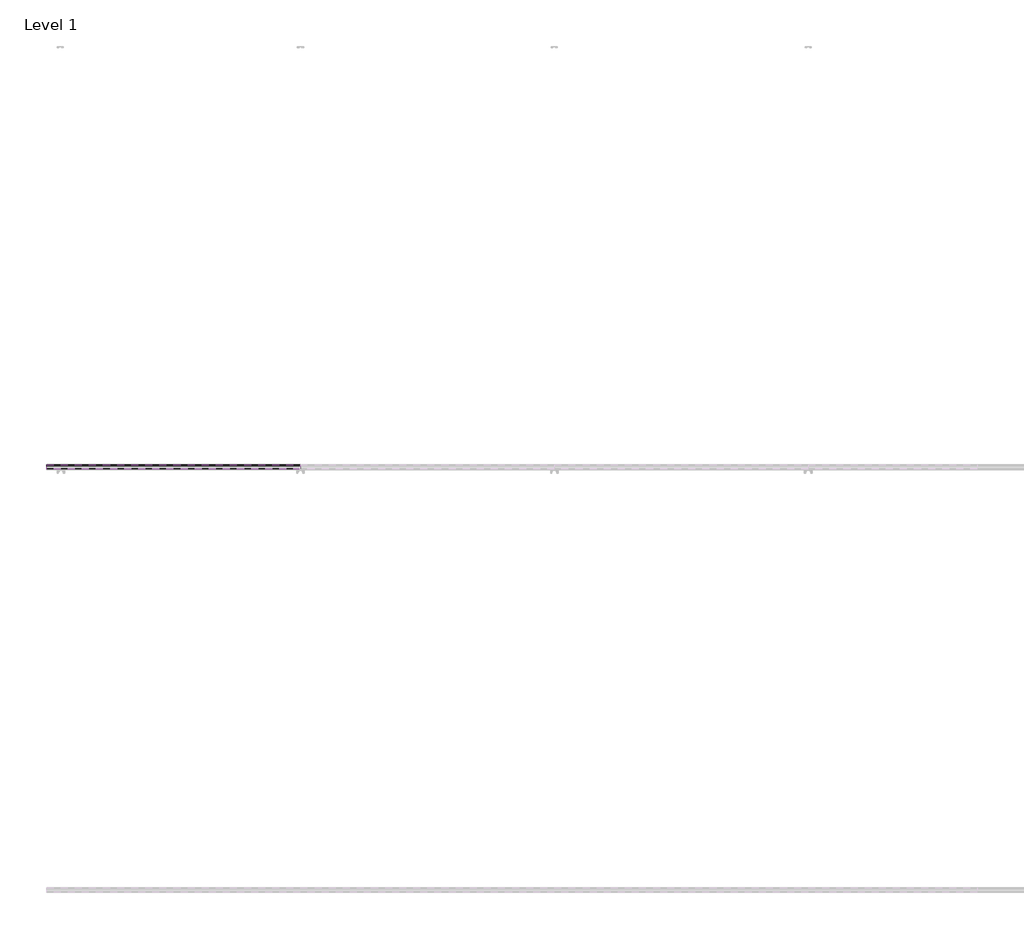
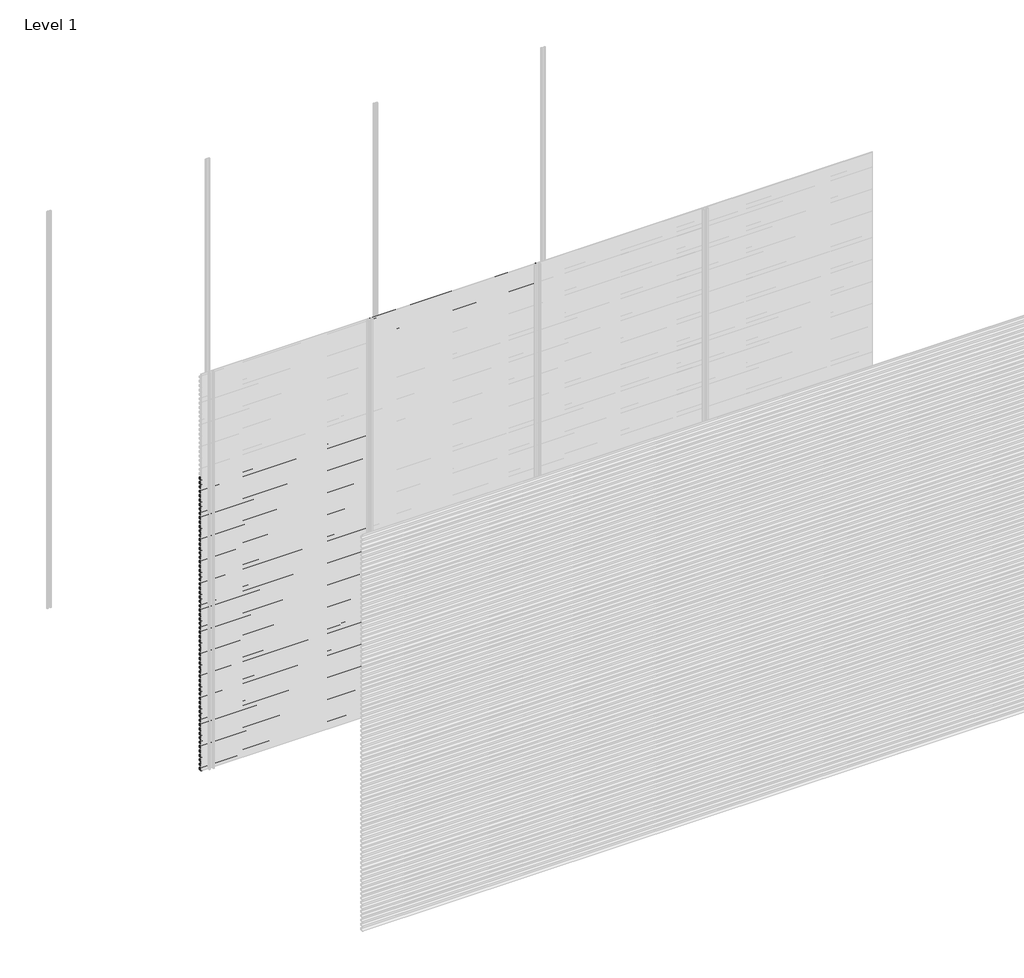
# One storey, part 65 of 77: 72 proxies.
"""IFC4 building model written with IfcOpenShell, lengths in millimetres."""

from ifc_helpers import new_model, si_unit, frame, origin, place, context, project, spatial, polyline, outline, extrude, element, save

model = new_model("IFC4")

# Units and contexts
model_context = context("Model", 3, world=origin())
ifc_project = project(units=[si_unit("LENGTHUNIT", "METRE", prefix="MILLI")], contexts=[model_context])

# Site, building, storey
site = spatial("IfcSite", under=ifc_project)
building = spatial("IfcBuilding", under=site)
storey = spatial("IfcBuildingStorey", under=building, Name="Level 1", Elevation=0.0)

# Proxies
placement = place(None, origin())
element("IfcBuildingElementProxy", 1, Name="Wall Sweeps", at=placement, inside=storey, context=model_context, shape_type="SweptSolid", body=[
    extrude(outline(polyline([(-5978.6, 2206.6359887), (-5998.0, 2217.8366691), (-5998.0, 2231.1), (-5997.0, 2231.1), (-5997.0, 2218.4191057), (-5977.6, 2207.2185105), (-5977.6, 2193.6185105), (-5978.6, 2195.1953129), (-5978.6, 2201.0032062), (-5995.9773817, 2192.9), (-5996.4, 2193.8063078), (-5978.6, 2202.1065841), (-5978.6, 2206.6359887)])), frame((0.0, 0.0, 0.0), z_axis=(1.0, 0.0, 0.0), x_axis=(0.0, 1.0, 0.0)), (0.0, 0.0, 1.0), 1200.0),
])
element("IfcBuildingElementProxy", 2, Name="Wall Sweeps", at=placement, inside=storey, context=model_context, shape_type="SweptSolid", body=[
    extrude(outline(polyline([(-5978.6, 2173.3359887), (-5998.0, 2184.5366691), (-5998.0, 2197.8), (-5997.0, 2197.8), (-5997.0, 2185.1191057), (-5977.6, 2173.9185105), (-5977.6, 2160.3185105), (-5978.6, 2161.8953129), (-5978.6, 2167.7032062), (-5995.9773817, 2159.6), (-5996.4, 2160.5063078), (-5978.6, 2168.8065841), (-5978.6, 2173.3359887)])), frame((0.0, 0.0, 0.0), z_axis=(1.0, 0.0, 0.0), x_axis=(0.0, 1.0, 0.0)), (0.0, 0.0, 1.0), 1200.0),
])
element("IfcBuildingElementProxy", 3, Name="Wall Sweeps", at=placement, inside=storey, context=model_context, shape_type="SweptSolid", body=[
    extrude(outline(polyline([(-5978.6, 2140.0359887), (-5998.0, 2151.2366691), (-5998.0, 2164.5), (-5997.0, 2164.5), (-5997.0, 2151.8191057), (-5977.6, 2140.6185105), (-5977.6, 2127.0185105), (-5978.6, 2128.5953129), (-5978.6, 2134.4032062), (-5995.9773817, 2126.3), (-5996.4, 2127.2063078), (-5978.6, 2135.5065841), (-5978.6, 2140.0359887)])), frame((0.0, 0.0, 0.0), z_axis=(1.0, 0.0, 0.0), x_axis=(0.0, 1.0, 0.0)), (0.0, 0.0, 1.0), 1200.0),
])
element("IfcBuildingElementProxy", 4, Name="Wall Sweeps", at=placement, inside=storey, context=model_context, shape_type="SweptSolid", body=[
    extrude(outline(polyline([(-5978.6, 2106.7359887), (-5998.0, 2117.9366691), (-5998.0, 2131.2), (-5997.0, 2131.2), (-5997.0, 2118.5191057), (-5977.6, 2107.3185105), (-5977.6, 2093.7185105), (-5978.6, 2095.2953129), (-5978.6, 2101.1032062), (-5995.9773817, 2093.0), (-5996.4, 2093.9063078), (-5978.6, 2102.2065841), (-5978.6, 2106.7359887)])), frame((0.0, 0.0, 0.0), z_axis=(1.0, 0.0, 0.0), x_axis=(0.0, 1.0, 0.0)), (0.0, 0.0, 1.0), 1200.0),
])
element("IfcBuildingElementProxy", 5, Name="Wall Sweeps", at=placement, inside=storey, context=model_context, shape_type="SweptSolid", body=[
    extrude(outline(polyline([(-5978.6, 2073.4359887), (-5998.0, 2084.6366691), (-5998.0, 2097.9), (-5997.0, 2097.9), (-5997.0, 2085.2191057), (-5977.6, 2074.0185105), (-5977.6, 2060.4185105), (-5978.6, 2061.9953129), (-5978.6, 2067.8032062), (-5995.9773817, 2059.7), (-5996.4, 2060.6063078), (-5978.6, 2068.9065841), (-5978.6, 2073.4359887)])), frame((0.0, 0.0, 0.0), z_axis=(1.0, 0.0, 0.0), x_axis=(0.0, 1.0, 0.0)), (0.0, 0.0, 1.0), 1200.0),
])
element("IfcBuildingElementProxy", 6, Name="Wall Sweeps", at=placement, inside=storey, context=model_context, shape_type="SweptSolid", body=[
    extrude(outline(polyline([(-5978.6, 2040.1359887), (-5998.0, 2051.3366691), (-5998.0, 2064.6), (-5997.0, 2064.6), (-5997.0, 2051.9191057), (-5977.6, 2040.7185105), (-5977.6, 2027.1185105), (-5978.6, 2028.6953129), (-5978.6, 2034.5032062), (-5995.9773817, 2026.4), (-5996.4, 2027.3063078), (-5978.6, 2035.6065841), (-5978.6, 2040.1359887)])), frame((0.0, 0.0, 0.0), z_axis=(1.0, 0.0, 0.0), x_axis=(0.0, 1.0, 0.0)), (0.0, 0.0, 1.0), 1200.0),
])
element("IfcBuildingElementProxy", 7, Name="Wall Sweeps", at=placement, inside=storey, context=model_context, shape_type="SweptSolid", body=[
    extrude(outline(polyline([(-5978.6, 2006.8359887), (-5998.0, 2018.0366691), (-5998.0, 2031.3), (-5997.0, 2031.3), (-5997.0, 2018.6191057), (-5977.6, 2007.4185105), (-5977.6, 1993.8185105), (-5978.6, 1995.3953129), (-5978.6, 2001.2032062), (-5995.9773817, 1993.1), (-5996.4, 1994.0063078), (-5978.6, 2002.3065841), (-5978.6, 2006.8359887)])), frame((0.0, 0.0, 0.0), z_axis=(1.0, 0.0, 0.0), x_axis=(0.0, 1.0, 0.0)), (0.0, 0.0, 1.0), 1200.0),
])
element("IfcBuildingElementProxy", 8, Name="Wall Sweeps", at=placement, inside=storey, context=model_context, shape_type="SweptSolid", body=[
    extrude(outline(polyline([(-5978.6, 1973.5359887), (-5998.0, 1984.7366691), (-5998.0, 1998.0), (-5997.0, 1998.0), (-5997.0, 1985.3191057), (-5977.6, 1974.1185105), (-5977.6, 1960.5185105), (-5978.6, 1962.0953129), (-5978.6, 1967.9032062), (-5995.9773817, 1959.8), (-5996.4, 1960.7063078), (-5978.6, 1969.0065841), (-5978.6, 1973.5359887)])), frame((0.0, 0.0, 0.0), z_axis=(1.0, 0.0, 0.0), x_axis=(0.0, 1.0, 0.0)), (0.0, 0.0, 1.0), 1200.0),
])
element("IfcBuildingElementProxy", 9, Name="Wall Sweeps", at=placement, inside=storey, context=model_context, shape_type="SweptSolid", body=[
    extrude(outline(polyline([(-5978.6, 1940.2359887), (-5998.0, 1951.4366691), (-5998.0, 1964.7), (-5997.0, 1964.7), (-5997.0, 1952.0191057), (-5977.6, 1940.8185105), (-5977.6, 1927.2185105), (-5978.6, 1928.7953129), (-5978.6, 1934.6032062), (-5995.9773817, 1926.5), (-5996.4, 1927.4063078), (-5978.6, 1935.7065841), (-5978.6, 1940.2359887)])), frame((0.0, 0.0, 0.0), z_axis=(1.0, 0.0, 0.0), x_axis=(0.0, 1.0, 0.0)), (0.0, 0.0, 1.0), 1200.0),
])
element("IfcBuildingElementProxy", 10, Name="Wall Sweeps", at=placement, inside=storey, context=model_context, shape_type="SweptSolid", body=[
    extrude(outline(polyline([(-5978.6, 1906.9359887), (-5998.0, 1918.1366691), (-5998.0, 1931.4), (-5997.0, 1931.4), (-5997.0, 1918.7191057), (-5977.6, 1907.5185105), (-5977.6, 1893.9185105), (-5978.6, 1895.4953129), (-5978.6, 1901.3032062), (-5995.9773817, 1893.2), (-5996.4, 1894.1063078), (-5978.6, 1902.4065841), (-5978.6, 1906.9359887)])), frame((0.0, 0.0, 0.0), z_axis=(1.0, 0.0, 0.0), x_axis=(0.0, 1.0, 0.0)), (0.0, 0.0, 1.0), 1200.0),
])
element("IfcBuildingElementProxy", 11, Name="Wall Sweeps", at=placement, inside=storey, context=model_context, shape_type="SweptSolid", body=[
    extrude(outline(polyline([(-5978.6, 1873.6359887), (-5998.0, 1884.8366691), (-5998.0, 1898.1), (-5997.0, 1898.1), (-5997.0, 1885.4191057), (-5977.6, 1874.2185105), (-5977.6, 1860.6185105), (-5978.6, 1862.1953129), (-5978.6, 1868.0032062), (-5995.9773817, 1859.9), (-5996.4, 1860.8063078), (-5978.6, 1869.1065841), (-5978.6, 1873.6359887)])), frame((0.0, 0.0, 0.0), z_axis=(1.0, 0.0, 0.0), x_axis=(0.0, 1.0, 0.0)), (0.0, 0.0, 1.0), 1200.0),
])
element("IfcBuildingElementProxy", 12, Name="Wall Sweeps", at=placement, inside=storey, context=model_context, shape_type="SweptSolid", body=[
    extrude(outline(polyline([(-5978.6, 1840.3359887), (-5998.0, 1851.5366691), (-5998.0, 1864.8), (-5997.0, 1864.8), (-5997.0, 1852.1191057), (-5977.6, 1840.9185105), (-5977.6, 1827.3185105), (-5978.6, 1828.8953129), (-5978.6, 1834.7032062), (-5995.9773817, 1826.6), (-5996.4, 1827.5063078), (-5978.6, 1835.8065841), (-5978.6, 1840.3359887)])), frame((0.0, 0.0, 0.0), z_axis=(1.0, 0.0, 0.0), x_axis=(0.0, 1.0, 0.0)), (0.0, 0.0, 1.0), 1200.0),
])
element("IfcBuildingElementProxy", 13, Name="Wall Sweeps", at=placement, inside=storey, context=model_context, shape_type="SweptSolid", body=[
    extrude(outline(polyline([(-5978.6, 1807.0359887), (-5998.0, 1818.2366691), (-5998.0, 1831.5), (-5997.0, 1831.5), (-5997.0, 1818.8191057), (-5977.6, 1807.6185105), (-5977.6, 1794.0185105), (-5978.6, 1795.5953129), (-5978.6, 1801.4032062), (-5995.9773817, 1793.3), (-5996.4, 1794.2063078), (-5978.6, 1802.5065841), (-5978.6, 1807.0359887)])), frame((0.0, 0.0, 0.0), z_axis=(1.0, 0.0, 0.0), x_axis=(0.0, 1.0, 0.0)), (0.0, 0.0, 1.0), 1200.0),
])
element("IfcBuildingElementProxy", 14, Name="Wall Sweeps", at=placement, inside=storey, context=model_context, shape_type="SweptSolid", body=[
    extrude(outline(polyline([(-5978.6, 1773.7359887), (-5998.0, 1784.9366691), (-5998.0, 1798.2), (-5997.0, 1798.2), (-5997.0, 1785.5191057), (-5977.6, 1774.3185105), (-5977.6, 1760.7185105), (-5978.6, 1762.2953129), (-5978.6, 1768.1032062), (-5995.9773817, 1760.0), (-5996.4, 1760.9063078), (-5978.6, 1769.2065841), (-5978.6, 1773.7359887)])), frame((0.0, 0.0, 0.0), z_axis=(1.0, 0.0, 0.0), x_axis=(0.0, 1.0, 0.0)), (0.0, 0.0, 1.0), 1200.0),
])
element("IfcBuildingElementProxy", 15, Name="Wall Sweeps", at=placement, inside=storey, context=model_context, shape_type="SweptSolid", body=[
    extrude(outline(polyline([(-5978.6, 1740.4359887), (-5998.0, 1751.6366691), (-5998.0, 1764.9), (-5997.0, 1764.9), (-5997.0, 1752.2191057), (-5977.6, 1741.0185105), (-5977.6, 1727.4185105), (-5978.6, 1728.9953129), (-5978.6, 1734.8032062), (-5995.9773817, 1726.7), (-5996.4, 1727.6063078), (-5978.6, 1735.9065841), (-5978.6, 1740.4359887)])), frame((0.0, 0.0, 0.0), z_axis=(1.0, 0.0, 0.0), x_axis=(0.0, 1.0, 0.0)), (0.0, 0.0, 1.0), 1200.0),
])
element("IfcBuildingElementProxy", 16, Name="Wall Sweeps", at=placement, inside=storey, context=model_context, shape_type="SweptSolid", body=[
    extrude(outline(polyline([(-5978.6, 1707.1359887), (-5998.0, 1718.3366691), (-5998.0, 1731.6), (-5997.0, 1731.6), (-5997.0, 1718.9191057), (-5977.6, 1707.7185105), (-5977.6, 1694.1185105), (-5978.6, 1695.6953129), (-5978.6, 1701.5032062), (-5995.9773817, 1693.4), (-5996.4, 1694.3063078), (-5978.6, 1702.6065841), (-5978.6, 1707.1359887)])), frame((0.0, 0.0, 0.0), z_axis=(1.0, 0.0, 0.0), x_axis=(0.0, 1.0, 0.0)), (0.0, 0.0, 1.0), 1200.0),
])
element("IfcBuildingElementProxy", 17, Name="Wall Sweeps", at=placement, inside=storey, context=model_context, shape_type="SweptSolid", body=[
    extrude(outline(polyline([(-5978.6, 1673.8359887), (-5998.0, 1685.0366691), (-5998.0, 1698.3), (-5997.0, 1698.3), (-5997.0, 1685.6191057), (-5977.6, 1674.4185105), (-5977.6, 1660.8185105), (-5978.6, 1662.3953129), (-5978.6, 1668.2032062), (-5995.9773817, 1660.1), (-5996.4, 1661.0063078), (-5978.6, 1669.3065841), (-5978.6, 1673.8359887)])), frame((0.0, 0.0, 0.0), z_axis=(1.0, 0.0, 0.0), x_axis=(0.0, 1.0, 0.0)), (0.0, 0.0, 1.0), 1200.0),
])
element("IfcBuildingElementProxy", 18, Name="Wall Sweeps", at=placement, inside=storey, context=model_context, shape_type="SweptSolid", body=[
    extrude(outline(polyline([(-5978.6, 1640.5359887), (-5998.0, 1651.7366691), (-5998.0, 1665.0), (-5997.0, 1665.0), (-5997.0, 1652.3191057), (-5977.6, 1641.1185105), (-5977.6, 1627.5185105), (-5978.6, 1629.0953129), (-5978.6, 1634.9032062), (-5995.9773817, 1626.8), (-5996.4, 1627.7063078), (-5978.6, 1636.0065841), (-5978.6, 1640.5359887)])), frame((0.0, 0.0, 0.0), z_axis=(1.0, 0.0, 0.0), x_axis=(0.0, 1.0, 0.0)), (0.0, 0.0, 1.0), 1200.0),
])
element("IfcBuildingElementProxy", 19, Name="Wall Sweeps", at=placement, inside=storey, context=model_context, shape_type="SweptSolid", body=[
    extrude(outline(polyline([(-5978.6, 1607.2359887), (-5998.0, 1618.4366691), (-5998.0, 1631.7), (-5997.0, 1631.7), (-5997.0, 1619.0191057), (-5977.6, 1607.8185105), (-5977.6, 1594.2185105), (-5978.6, 1595.7953129), (-5978.6, 1601.6032062), (-5995.9773817, 1593.5), (-5996.4, 1594.4063078), (-5978.6, 1602.7065841), (-5978.6, 1607.2359887)])), frame((0.0, 0.0, 0.0), z_axis=(1.0, 0.0, 0.0), x_axis=(0.0, 1.0, 0.0)), (0.0, 0.0, 1.0), 1200.0),
])
element("IfcBuildingElementProxy", 20, Name="Wall Sweeps", at=placement, inside=storey, context=model_context, shape_type="SweptSolid", body=[
    extrude(outline(polyline([(-5978.6, 1573.9359887), (-5998.0, 1585.1366691), (-5998.0, 1598.4), (-5997.0, 1598.4), (-5997.0, 1585.7191057), (-5977.6, 1574.5185105), (-5977.6, 1560.9185105), (-5978.6, 1562.4953129), (-5978.6, 1568.3032062), (-5995.9773817, 1560.2), (-5996.4, 1561.1063078), (-5978.6, 1569.4065841), (-5978.6, 1573.9359887)])), frame((0.0, 0.0, 0.0), z_axis=(1.0, 0.0, 0.0), x_axis=(0.0, 1.0, 0.0)), (0.0, 0.0, 1.0), 1200.0),
])
element("IfcBuildingElementProxy", 21, Name="Wall Sweeps", at=placement, inside=storey, context=model_context, shape_type="SweptSolid", body=[
    extrude(outline(polyline([(-5978.6, 1540.6359887), (-5998.0, 1551.8366691), (-5998.0, 1565.1), (-5997.0, 1565.1), (-5997.0, 1552.4191057), (-5977.6, 1541.2185105), (-5977.6, 1527.6185105), (-5978.6, 1529.1953129), (-5978.6, 1535.0032062), (-5995.9773817, 1526.9), (-5996.4, 1527.8063078), (-5978.6, 1536.1065841), (-5978.6, 1540.6359887)])), frame((0.0, 0.0, 0.0), z_axis=(1.0, 0.0, 0.0), x_axis=(0.0, 1.0, 0.0)), (0.0, 0.0, 1.0), 1200.0),
])
element("IfcBuildingElementProxy", 22, Name="Wall Sweeps", at=placement, inside=storey, context=model_context, shape_type="SweptSolid", body=[
    extrude(outline(polyline([(-5978.6, 1507.3359887), (-5998.0, 1518.5366691), (-5998.0, 1531.8), (-5997.0, 1531.8), (-5997.0, 1519.1191057), (-5977.6, 1507.9185105), (-5977.6, 1494.3185105), (-5978.6, 1495.8953129), (-5978.6, 1501.7032062), (-5995.9773817, 1493.6), (-5996.4, 1494.5063078), (-5978.6, 1502.8065841), (-5978.6, 1507.3359887)])), frame((0.0, 0.0, 0.0), z_axis=(1.0, 0.0, 0.0), x_axis=(0.0, 1.0, 0.0)), (0.0, 0.0, 1.0), 1200.0),
])
element("IfcBuildingElementProxy", 23, Name="Wall Sweeps", at=placement, inside=storey, context=model_context, shape_type="SweptSolid", body=[
    extrude(outline(polyline([(-5978.6, 1474.0359887), (-5998.0, 1485.2366691), (-5998.0, 1498.5), (-5997.0, 1498.5), (-5997.0, 1485.8191057), (-5977.6, 1474.6185105), (-5977.6, 1461.0185105), (-5978.6, 1462.5953129), (-5978.6, 1468.4032062), (-5995.9773817, 1460.3), (-5996.4, 1461.2063078), (-5978.6, 1469.5065841), (-5978.6, 1474.0359887)])), frame((0.0, 0.0, 0.0), z_axis=(1.0, 0.0, 0.0), x_axis=(0.0, 1.0, 0.0)), (0.0, 0.0, 1.0), 1200.0),
])
element("IfcBuildingElementProxy", 24, Name="Wall Sweeps", at=placement, inside=storey, context=model_context, shape_type="SweptSolid", body=[
    extrude(outline(polyline([(-5978.6, 1440.7359887), (-5998.0, 1451.9366691), (-5998.0, 1465.2), (-5997.0, 1465.2), (-5997.0, 1452.5191057), (-5977.6, 1441.3185105), (-5977.6, 1427.7185105), (-5978.6, 1429.2953129), (-5978.6, 1435.1032062), (-5995.9773817, 1427.0), (-5996.4, 1427.9063078), (-5978.6, 1436.2065841), (-5978.6, 1440.7359887)])), frame((0.0, 0.0, 0.0), z_axis=(1.0, 0.0, 0.0), x_axis=(0.0, 1.0, 0.0)), (0.0, 0.0, 1.0), 1200.0),
])
element("IfcBuildingElementProxy", 25, Name="Wall Sweeps", at=placement, inside=storey, context=model_context, shape_type="SweptSolid", body=[
    extrude(outline(polyline([(-5978.6, 1407.4359887), (-5998.0, 1418.6366691), (-5998.0, 1431.9), (-5997.0, 1431.9), (-5997.0, 1419.2191057), (-5977.6, 1408.0185105), (-5977.6, 1394.4185105), (-5978.6, 1395.9953129), (-5978.6, 1401.8032062), (-5995.9773817, 1393.7), (-5996.4, 1394.6063078), (-5978.6, 1402.9065841), (-5978.6, 1407.4359887)])), frame((0.0, 0.0, 0.0), z_axis=(1.0, 0.0, 0.0), x_axis=(0.0, 1.0, 0.0)), (0.0, 0.0, 1.0), 1200.0),
])
element("IfcBuildingElementProxy", 26, Name="Wall Sweeps", at=placement, inside=storey, context=model_context, shape_type="SweptSolid", body=[
    extrude(outline(polyline([(-5978.6, 1374.1359887), (-5998.0, 1385.3366691), (-5998.0, 1398.6), (-5997.0, 1398.6), (-5997.0, 1385.9191057), (-5977.6, 1374.7185105), (-5977.6, 1361.1185105), (-5978.6, 1362.6953129), (-5978.6, 1368.5032062), (-5995.9773817, 1360.4), (-5996.4, 1361.3063078), (-5978.6, 1369.6065841), (-5978.6, 1374.1359887)])), frame((0.0, 0.0, 0.0), z_axis=(1.0, 0.0, 0.0), x_axis=(0.0, 1.0, 0.0)), (0.0, 0.0, 1.0), 1200.0),
])
element("IfcBuildingElementProxy", 27, Name="Wall Sweeps", at=placement, inside=storey, context=model_context, shape_type="SweptSolid", body=[
    extrude(outline(polyline([(-5978.6, 1340.8359887), (-5998.0, 1352.0366691), (-5998.0, 1365.3), (-5997.0, 1365.3), (-5997.0, 1352.6191057), (-5977.6, 1341.4185105), (-5977.6, 1327.8185105), (-5978.6, 1329.3953129), (-5978.6, 1335.2032062), (-5995.9773817, 1327.1), (-5996.4, 1328.0063078), (-5978.6, 1336.3065841), (-5978.6, 1340.8359887)])), frame((0.0, 0.0, 0.0), z_axis=(1.0, 0.0, 0.0), x_axis=(0.0, 1.0, 0.0)), (0.0, 0.0, 1.0), 1200.0),
])
element("IfcBuildingElementProxy", 28, Name="Wall Sweeps", at=placement, inside=storey, context=model_context, shape_type="SweptSolid", body=[
    extrude(outline(polyline([(-5978.6, 1307.5359887), (-5998.0, 1318.7366691), (-5998.0, 1332.0), (-5997.0, 1332.0), (-5997.0, 1319.3191057), (-5977.6, 1308.1185105), (-5977.6, 1294.5185105), (-5978.6, 1296.0953129), (-5978.6, 1301.9032062), (-5995.9773817, 1293.8), (-5996.4, 1294.7063078), (-5978.6, 1303.0065841), (-5978.6, 1307.5359887)])), frame((0.0, 0.0, 0.0), z_axis=(1.0, 0.0, 0.0), x_axis=(0.0, 1.0, 0.0)), (0.0, 0.0, 1.0), 1200.0),
])
element("IfcBuildingElementProxy", 29, Name="Wall Sweeps", at=placement, inside=storey, context=model_context, shape_type="SweptSolid", body=[
    extrude(outline(polyline([(-5978.6, 1274.2359887), (-5998.0, 1285.4366691), (-5998.0, 1298.7), (-5997.0, 1298.7), (-5997.0, 1286.0191057), (-5977.6, 1274.8185105), (-5977.6, 1261.2185105), (-5978.6, 1262.7953129), (-5978.6, 1268.6032062), (-5995.9773817, 1260.5), (-5996.4, 1261.4063078), (-5978.6, 1269.7065841), (-5978.6, 1274.2359887)])), frame((0.0, 0.0, 0.0), z_axis=(1.0, 0.0, 0.0), x_axis=(0.0, 1.0, 0.0)), (0.0, 0.0, 1.0), 1200.0),
])
element("IfcBuildingElementProxy", 30, Name="Wall Sweeps", at=placement, inside=storey, context=model_context, shape_type="SweptSolid", body=[
    extrude(outline(polyline([(-5978.6, 1240.9359887), (-5998.0, 1252.1366691), (-5998.0, 1265.4), (-5997.0, 1265.4), (-5997.0, 1252.7191057), (-5977.6, 1241.5185105), (-5977.6, 1227.9185105), (-5978.6, 1229.4953129), (-5978.6, 1235.3032062), (-5995.9773817, 1227.2), (-5996.4, 1228.1063078), (-5978.6, 1236.4065841), (-5978.6, 1240.9359887)])), frame((0.0, 0.0, 0.0), z_axis=(1.0, 0.0, 0.0), x_axis=(0.0, 1.0, 0.0)), (0.0, 0.0, 1.0), 1200.0),
])
element("IfcBuildingElementProxy", 31, Name="Wall Sweeps", at=placement, inside=storey, context=model_context, shape_type="SweptSolid", body=[
    extrude(outline(polyline([(-5978.6, 1207.6359887), (-5998.0, 1218.8366691), (-5998.0, 1232.1), (-5997.0, 1232.1), (-5997.0, 1219.4191057), (-5977.6, 1208.2185105), (-5977.6, 1194.6185105), (-5978.6, 1196.1953129), (-5978.6, 1202.0032062), (-5995.9773817, 1193.9), (-5996.4, 1194.8063078), (-5978.6, 1203.1065841), (-5978.6, 1207.6359887)])), frame((0.0, 0.0, 0.0), z_axis=(1.0, 0.0, 0.0), x_axis=(0.0, 1.0, 0.0)), (0.0, 0.0, 1.0), 1200.0),
])
element("IfcBuildingElementProxy", 32, Name="Wall Sweeps", at=placement, inside=storey, context=model_context, shape_type="SweptSolid", body=[
    extrude(outline(polyline([(-5978.6, 1174.3359887), (-5998.0, 1185.5366691), (-5998.0, 1198.8), (-5997.0, 1198.8), (-5997.0, 1186.1191057), (-5977.6, 1174.9185105), (-5977.6, 1161.3185105), (-5978.6, 1162.8953129), (-5978.6, 1168.7032062), (-5995.9773817, 1160.6), (-5996.4, 1161.5063078), (-5978.6, 1169.8065841), (-5978.6, 1174.3359887)])), frame((0.0, 0.0, 0.0), z_axis=(1.0, 0.0, 0.0), x_axis=(0.0, 1.0, 0.0)), (0.0, 0.0, 1.0), 1200.0),
])
element("IfcBuildingElementProxy", 33, Name="Wall Sweeps", at=placement, inside=storey, context=model_context, shape_type="SweptSolid", body=[
    extrude(outline(polyline([(-5978.6, 1141.0359887), (-5998.0, 1152.2366691), (-5998.0, 1165.5), (-5997.0, 1165.5), (-5997.0, 1152.8191057), (-5977.6, 1141.6185105), (-5977.6, 1128.0185105), (-5978.6, 1129.5953129), (-5978.6, 1135.4032062), (-5995.9773817, 1127.3), (-5996.4, 1128.2063078), (-5978.6, 1136.5065841), (-5978.6, 1141.0359887)])), frame((0.0, 0.0, 0.0), z_axis=(1.0, 0.0, 0.0), x_axis=(0.0, 1.0, 0.0)), (0.0, 0.0, 1.0), 1200.0),
])
element("IfcBuildingElementProxy", 34, Name="Wall Sweeps", at=placement, inside=storey, context=model_context, shape_type="SweptSolid", body=[
    extrude(outline(polyline([(-5978.6, 1107.7359887), (-5998.0, 1118.9366691), (-5998.0, 1132.2), (-5997.0, 1132.2), (-5997.0, 1119.5191057), (-5977.6, 1108.3185105), (-5977.6, 1094.7185105), (-5978.6, 1096.2953129), (-5978.6, 1102.1032062), (-5995.9773817, 1094.0), (-5996.4, 1094.9063078), (-5978.6, 1103.2065841), (-5978.6, 1107.7359887)])), frame((0.0, 0.0, 0.0), z_axis=(1.0, 0.0, 0.0), x_axis=(0.0, 1.0, 0.0)), (0.0, 0.0, 1.0), 1200.0),
])
element("IfcBuildingElementProxy", 35, Name="Wall Sweeps", at=placement, inside=storey, context=model_context, shape_type="SweptSolid", body=[
    extrude(outline(polyline([(-5978.6, 1074.4359887), (-5998.0, 1085.6366691), (-5998.0, 1098.9), (-5997.0, 1098.9), (-5997.0, 1086.2191057), (-5977.6, 1075.0185105), (-5977.6, 1061.4185105), (-5978.6, 1062.9953129), (-5978.6, 1068.8032062), (-5995.9773817, 1060.7), (-5996.4, 1061.6063078), (-5978.6, 1069.9065841), (-5978.6, 1074.4359887)])), frame((0.0, 0.0, 0.0), z_axis=(1.0, 0.0, 0.0), x_axis=(0.0, 1.0, 0.0)), (0.0, 0.0, 1.0), 1200.0),
])
element("IfcBuildingElementProxy", 36, Name="Wall Sweeps", at=placement, inside=storey, context=model_context, shape_type="SweptSolid", body=[
    extrude(outline(polyline([(-5978.6, 1041.1359887), (-5998.0, 1052.3366691), (-5998.0, 1065.6), (-5997.0, 1065.6), (-5997.0, 1052.9191057), (-5977.6, 1041.7185105), (-5977.6, 1028.1185105), (-5978.6, 1029.6953129), (-5978.6, 1035.5032062), (-5995.9773817, 1027.4), (-5996.4, 1028.3063078), (-5978.6, 1036.6065841), (-5978.6, 1041.1359887)])), frame((0.0, 0.0, 0.0), z_axis=(1.0, 0.0, 0.0), x_axis=(0.0, 1.0, 0.0)), (0.0, 0.0, 1.0), 1200.0),
])
element("IfcBuildingElementProxy", 37, Name="Wall Sweeps", at=placement, inside=storey, context=model_context, shape_type="SweptSolid", body=[
    extrude(outline(polyline([(-5978.6, 1007.8359887), (-5998.0, 1019.0366691), (-5998.0, 1032.3), (-5997.0, 1032.3), (-5997.0, 1019.6191057), (-5977.6, 1008.4185105), (-5977.6, 994.8185105), (-5978.6, 996.3953129), (-5978.6, 1002.2032062), (-5995.9773817, 994.1), (-5996.4, 995.0063078), (-5978.6, 1003.3065841), (-5978.6, 1007.8359887)])), frame((0.0, 0.0, 0.0), z_axis=(1.0, 0.0, 0.0), x_axis=(0.0, 1.0, 0.0)), (0.0, 0.0, 1.0), 1200.0),
])
element("IfcBuildingElementProxy", 38, Name="Wall Sweeps", at=placement, inside=storey, context=model_context, shape_type="SweptSolid", body=[
    extrude(outline(polyline([(-5978.6, 974.5359887), (-5998.0, 985.7366691), (-5998.0, 999.0), (-5997.0, 999.0), (-5997.0, 986.3191057), (-5977.6, 975.1185105), (-5977.6, 961.5185105), (-5978.6, 963.0953129), (-5978.6, 968.9032062), (-5995.9773817, 960.8), (-5996.4, 961.7063078), (-5978.6, 970.0065841), (-5978.6, 974.5359887)])), frame((0.0, 0.0, 0.0), z_axis=(1.0, 0.0, 0.0), x_axis=(0.0, 1.0, 0.0)), (0.0, 0.0, 1.0), 1200.0),
])
element("IfcBuildingElementProxy", 39, Name="Wall Sweeps", at=placement, inside=storey, context=model_context, shape_type="SweptSolid", body=[
    extrude(outline(polyline([(-5978.6, 941.2359887), (-5998.0, 952.4366691), (-5998.0, 965.7), (-5997.0, 965.7), (-5997.0, 953.0191057), (-5977.6, 941.8185105), (-5977.6, 928.2185105), (-5978.6, 929.7953129), (-5978.6, 935.6032062), (-5995.9773817, 927.5), (-5996.4, 928.4063078), (-5978.6, 936.7065841), (-5978.6, 941.2359887)])), frame((0.0, 0.0, 0.0), z_axis=(1.0, 0.0, 0.0), x_axis=(0.0, 1.0, 0.0)), (0.0, 0.0, 1.0), 1200.0),
])
element("IfcBuildingElementProxy", 40, Name="Wall Sweeps", at=placement, inside=storey, context=model_context, shape_type="SweptSolid", body=[
    extrude(outline(polyline([(-5978.6, 907.9359887), (-5998.0, 919.1366691), (-5998.0, 932.4), (-5997.0, 932.4), (-5997.0, 919.7191057), (-5977.6, 908.5185105), (-5977.6, 894.9185105), (-5978.6, 896.4953129), (-5978.6, 902.3032062), (-5995.9773817, 894.2), (-5996.4, 895.1063078), (-5978.6, 903.4065841), (-5978.6, 907.9359887)])), frame((0.0, 0.0, 0.0), z_axis=(1.0, 0.0, 0.0), x_axis=(0.0, 1.0, 0.0)), (0.0, 0.0, 1.0), 1200.0),
])
element("IfcBuildingElementProxy", 41, Name="Wall Sweeps", at=placement, inside=storey, context=model_context, shape_type="SweptSolid", body=[
    extrude(outline(polyline([(-5978.6, 874.6359887), (-5998.0, 885.8366691), (-5998.0, 899.1), (-5997.0, 899.1), (-5997.0, 886.4191057), (-5977.6, 875.2185105), (-5977.6, 861.6185105), (-5978.6, 863.1953129), (-5978.6, 869.0032062), (-5995.9773817, 860.9), (-5996.4, 861.8063078), (-5978.6, 870.1065841), (-5978.6, 874.6359887)])), frame((0.0, 0.0, 0.0), z_axis=(1.0, 0.0, 0.0), x_axis=(0.0, 1.0, 0.0)), (0.0, 0.0, 1.0), 1200.0),
])
element("IfcBuildingElementProxy", 42, Name="Wall Sweeps", at=placement, inside=storey, context=model_context, shape_type="SweptSolid", body=[
    extrude(outline(polyline([(-5978.6, 841.3359887), (-5998.0, 852.5366691), (-5998.0, 865.8), (-5997.0, 865.8), (-5997.0, 853.1191057), (-5977.6, 841.9185105), (-5977.6, 828.3185105), (-5978.6, 829.8953129), (-5978.6, 835.7032062), (-5995.9773817, 827.6), (-5996.4, 828.5063078), (-5978.6, 836.8065841), (-5978.6, 841.3359887)])), frame((0.0, 0.0, 0.0), z_axis=(1.0, 0.0, 0.0), x_axis=(0.0, 1.0, 0.0)), (0.0, 0.0, 1.0), 1200.0),
])
element("IfcBuildingElementProxy", 43, Name="Wall Sweeps", at=placement, inside=storey, context=model_context, shape_type="SweptSolid", body=[
    extrude(outline(polyline([(-5978.6, 808.0359887), (-5998.0, 819.2366691), (-5998.0, 832.5), (-5997.0, 832.5), (-5997.0, 819.8191057), (-5977.6, 808.6185105), (-5977.6, 795.0185105), (-5978.6, 796.5953129), (-5978.6, 802.4032062), (-5995.9773817, 794.3), (-5996.4, 795.2063078), (-5978.6, 803.5065841), (-5978.6, 808.0359887)])), frame((0.0, 0.0, 0.0), z_axis=(1.0, 0.0, 0.0), x_axis=(0.0, 1.0, 0.0)), (0.0, 0.0, 1.0), 1200.0),
])
element("IfcBuildingElementProxy", 44, Name="Wall Sweeps", at=placement, inside=storey, context=model_context, shape_type="SweptSolid", body=[
    extrude(outline(polyline([(-5978.6, 774.7359887), (-5998.0, 785.9366691), (-5998.0, 799.2), (-5997.0, 799.2), (-5997.0, 786.5191057), (-5977.6, 775.3185105), (-5977.6, 761.7185105), (-5978.6, 763.2953129), (-5978.6, 769.1032062), (-5995.9773817, 761.0), (-5996.4, 761.9063078), (-5978.6, 770.2065841), (-5978.6, 774.7359887)])), frame((0.0, 0.0, 0.0), z_axis=(1.0, 0.0, 0.0), x_axis=(0.0, 1.0, 0.0)), (0.0, 0.0, 1.0), 1200.0),
])
element("IfcBuildingElementProxy", 45, Name="Wall Sweeps", at=placement, inside=storey, context=model_context, shape_type="SweptSolid", body=[
    extrude(outline(polyline([(-5978.6, 741.4359887), (-5998.0, 752.6366691), (-5998.0, 765.9), (-5997.0, 765.9), (-5997.0, 753.2191057), (-5977.6, 742.0185105), (-5977.6, 728.4185105), (-5978.6, 729.9953129), (-5978.6, 735.8032062), (-5995.9773817, 727.7), (-5996.4, 728.6063078), (-5978.6, 736.9065841), (-5978.6, 741.4359887)])), frame((0.0, 0.0, 0.0), z_axis=(1.0, 0.0, 0.0), x_axis=(0.0, 1.0, 0.0)), (0.0, 0.0, 1.0), 1200.0),
])
element("IfcBuildingElementProxy", 46, Name="Wall Sweeps", at=placement, inside=storey, context=model_context, shape_type="SweptSolid", body=[
    extrude(outline(polyline([(-5978.6, 708.1359887), (-5998.0, 719.3366691), (-5998.0, 732.6), (-5997.0, 732.6), (-5997.0, 719.9191057), (-5977.6, 708.7185105), (-5977.6, 695.1185105), (-5978.6, 696.6953129), (-5978.6, 702.5032062), (-5995.9773817, 694.4), (-5996.4, 695.3063078), (-5978.6, 703.6065841), (-5978.6, 708.1359887)])), frame((0.0, 0.0, 0.0), z_axis=(1.0, 0.0, 0.0), x_axis=(0.0, 1.0, 0.0)), (0.0, 0.0, 1.0), 1200.0),
])
element("IfcBuildingElementProxy", 47, Name="Wall Sweeps", at=placement, inside=storey, context=model_context, shape_type="SweptSolid", body=[
    extrude(outline(polyline([(-5978.6, 674.8359887), (-5998.0, 686.0366691), (-5998.0, 699.3), (-5997.0, 699.3), (-5997.0, 686.6191057), (-5977.6, 675.4185105), (-5977.6, 661.8185105), (-5978.6, 663.3953129), (-5978.6, 669.2032062), (-5995.9773817, 661.1), (-5996.4, 662.0063078), (-5978.6, 670.3065841), (-5978.6, 674.8359887)])), frame((0.0, 0.0, 0.0), z_axis=(1.0, 0.0, 0.0), x_axis=(0.0, 1.0, 0.0)), (0.0, 0.0, 1.0), 1200.0),
])
element("IfcBuildingElementProxy", 48, Name="Wall Sweeps", at=placement, inside=storey, context=model_context, shape_type="SweptSolid", body=[
    extrude(outline(polyline([(-5978.6, 641.5359887), (-5998.0, 652.7366691), (-5998.0, 666.0), (-5997.0, 666.0), (-5997.0, 653.3191057), (-5977.6, 642.1185105), (-5977.6, 628.5185105), (-5978.6, 630.0953129), (-5978.6, 635.9032062), (-5995.9773817, 627.8), (-5996.4, 628.7063078), (-5978.6, 637.0065841), (-5978.6, 641.5359887)])), frame((0.0, 0.0, 0.0), z_axis=(1.0, 0.0, 0.0), x_axis=(0.0, 1.0, 0.0)), (0.0, 0.0, 1.0), 1200.0),
])
element("IfcBuildingElementProxy", 49, Name="Wall Sweeps", at=placement, inside=storey, context=model_context, shape_type="SweptSolid", body=[
    extrude(outline(polyline([(-5978.6, 608.2359887), (-5998.0, 619.4366691), (-5998.0, 632.7), (-5997.0, 632.7), (-5997.0, 620.0191057), (-5977.6, 608.8185105), (-5977.6, 595.2185105), (-5978.6, 596.7953129), (-5978.6, 602.6032062), (-5995.9773817, 594.5), (-5996.4, 595.4063078), (-5978.6, 603.7065841), (-5978.6, 608.2359887)])), frame((0.0, 0.0, 0.0), z_axis=(1.0, 0.0, 0.0), x_axis=(0.0, 1.0, 0.0)), (0.0, 0.0, 1.0), 1200.0),
])
element("IfcBuildingElementProxy", 50, Name="Wall Sweeps", at=placement, inside=storey, context=model_context, shape_type="SweptSolid", body=[
    extrude(outline(polyline([(-5978.6, 574.9359887), (-5998.0, 586.1366691), (-5998.0, 599.4), (-5997.0, 599.4), (-5997.0, 586.7191057), (-5977.6, 575.5185105), (-5977.6, 561.9185105), (-5978.6, 563.4953129), (-5978.6, 569.3032062), (-5995.9773817, 561.2), (-5996.4, 562.1063078), (-5978.6, 570.4065841), (-5978.6, 574.9359887)])), frame((0.0, 0.0, 0.0), z_axis=(1.0, 0.0, 0.0), x_axis=(0.0, 1.0, 0.0)), (0.0, 0.0, 1.0), 1200.0),
])
element("IfcBuildingElementProxy", 51, Name="Wall Sweeps", at=placement, inside=storey, context=model_context, shape_type="SweptSolid", body=[
    extrude(outline(polyline([(-5978.6, 541.6359887), (-5998.0, 552.8366691), (-5998.0, 566.1), (-5997.0, 566.1), (-5997.0, 553.4191057), (-5977.6, 542.2185105), (-5977.6, 528.6185105), (-5978.6, 530.1953129), (-5978.6, 536.0032062), (-5995.9773817, 527.9), (-5996.4, 528.8063078), (-5978.6, 537.1065841), (-5978.6, 541.6359887)])), frame((0.0, 0.0, 0.0), z_axis=(1.0, 0.0, 0.0), x_axis=(0.0, 1.0, 0.0)), (0.0, 0.0, 1.0), 1200.0),
])
element("IfcBuildingElementProxy", 52, Name="Wall Sweeps", at=placement, inside=storey, context=model_context, shape_type="SweptSolid", body=[
    extrude(outline(polyline([(-5978.6, 508.3359887), (-5998.0, 519.5366691), (-5998.0, 532.8), (-5997.0, 532.8), (-5997.0, 520.1191057), (-5977.6, 508.9185105), (-5977.6, 495.3185105), (-5978.6, 496.8953129), (-5978.6, 502.7032062), (-5995.9773817, 494.6), (-5996.4, 495.5063078), (-5978.6, 503.8065841), (-5978.6, 508.3359887)])), frame((0.0, 0.0, 0.0), z_axis=(1.0, 0.0, 0.0), x_axis=(0.0, 1.0, 0.0)), (0.0, 0.0, 1.0), 1200.0),
])
element("IfcBuildingElementProxy", 53, Name="Wall Sweeps", at=placement, inside=storey, context=model_context, shape_type="SweptSolid", body=[
    extrude(outline(polyline([(-5978.6, 475.0359887), (-5998.0, 486.2366691), (-5998.0, 499.5), (-5997.0, 499.5), (-5997.0, 486.8191057), (-5977.6, 475.6185105), (-5977.6, 462.0185105), (-5978.6, 463.5953129), (-5978.6, 469.4032062), (-5995.9773817, 461.3), (-5996.4, 462.2063078), (-5978.6, 470.5065841), (-5978.6, 475.0359887)])), frame((0.0, 0.0, 0.0), z_axis=(1.0, 0.0, 0.0), x_axis=(0.0, 1.0, 0.0)), (0.0, 0.0, 1.0), 1200.0),
])
element("IfcBuildingElementProxy", 54, Name="Wall Sweeps", at=placement, inside=storey, context=model_context, shape_type="SweptSolid", body=[
    extrude(outline(polyline([(-5978.6, 441.7359887), (-5998.0, 452.9366691), (-5998.0, 466.2), (-5997.0, 466.2), (-5997.0, 453.5191057), (-5977.6, 442.3185105), (-5977.6, 428.7185105), (-5978.6, 430.2953129), (-5978.6, 436.1032062), (-5995.9773817, 428.0), (-5996.4, 428.9063078), (-5978.6, 437.2065841), (-5978.6, 441.7359887)])), frame((0.0, 0.0, 0.0), z_axis=(1.0, 0.0, 0.0), x_axis=(0.0, 1.0, 0.0)), (0.0, 0.0, 1.0), 1200.0),
])
element("IfcBuildingElementProxy", 55, Name="Wall Sweeps", at=placement, inside=storey, context=model_context, shape_type="SweptSolid", body=[
    extrude(outline(polyline([(-5978.6, 408.4359887), (-5998.0, 419.6366691), (-5998.0, 432.9), (-5997.0, 432.9), (-5997.0, 420.2191057), (-5977.6, 409.0185105), (-5977.6, 395.4185105), (-5978.6, 396.9953129), (-5978.6, 402.8032062), (-5995.9773817, 394.7), (-5996.4, 395.6063078), (-5978.6, 403.9065841), (-5978.6, 408.4359887)])), frame((0.0, 0.0, 0.0), z_axis=(1.0, 0.0, 0.0), x_axis=(0.0, 1.0, 0.0)), (0.0, 0.0, 1.0), 1200.0),
])
element("IfcBuildingElementProxy", 56, Name="Wall Sweeps", at=placement, inside=storey, context=model_context, shape_type="SweptSolid", body=[
    extrude(outline(polyline([(-5978.6, 375.1359887), (-5998.0, 386.3366691), (-5998.0, 399.6), (-5997.0, 399.6), (-5997.0, 386.9191057), (-5977.6, 375.7185105), (-5977.6, 362.1185105), (-5978.6, 363.6953129), (-5978.6, 369.5032062), (-5995.9773817, 361.4), (-5996.4, 362.3063078), (-5978.6, 370.6065841), (-5978.6, 375.1359887)])), frame((0.0, 0.0, 0.0), z_axis=(1.0, 0.0, 0.0), x_axis=(0.0, 1.0, 0.0)), (0.0, 0.0, 1.0), 1200.0),
])
element("IfcBuildingElementProxy", 57, Name="Wall Sweeps", at=placement, inside=storey, context=model_context, shape_type="SweptSolid", body=[
    extrude(outline(polyline([(-5978.6, 341.8359887), (-5998.0, 353.0366691), (-5998.0, 366.3), (-5997.0, 366.3), (-5997.0, 353.6191057), (-5977.6, 342.4185105), (-5977.6, 328.8185105), (-5978.6, 330.3953129), (-5978.6, 336.2032062), (-5995.9773817, 328.1), (-5996.4, 329.0063078), (-5978.6, 337.3065841), (-5978.6, 341.8359887)])), frame((0.0, 0.0, 0.0), z_axis=(1.0, 0.0, 0.0), x_axis=(0.0, 1.0, 0.0)), (0.0, 0.0, 1.0), 1200.0),
])
element("IfcBuildingElementProxy", 58, Name="Wall Sweeps", at=placement, inside=storey, context=model_context, shape_type="SweptSolid", body=[
    extrude(outline(polyline([(-5978.6, 308.5359887), (-5998.0, 319.7366691), (-5998.0, 333.0), (-5997.0, 333.0), (-5997.0, 320.3191057), (-5977.6, 309.1185105), (-5977.6, 295.5185105), (-5978.6, 297.0953129), (-5978.6, 302.9032062), (-5995.9773817, 294.8), (-5996.4, 295.7063078), (-5978.6, 304.0065841), (-5978.6, 308.5359887)])), frame((0.0, 0.0, 0.0), z_axis=(1.0, 0.0, 0.0), x_axis=(0.0, 1.0, 0.0)), (0.0, 0.0, 1.0), 1200.0),
])
element("IfcBuildingElementProxy", 59, Name="Wall Sweeps", at=placement, inside=storey, context=model_context, shape_type="SweptSolid", body=[
    extrude(outline(polyline([(-5978.6, 275.2359887), (-5998.0, 286.4366691), (-5998.0, 299.7), (-5997.0, 299.7), (-5997.0, 287.0191057), (-5977.6, 275.8185105), (-5977.6, 262.2185105), (-5978.6, 263.7953129), (-5978.6, 269.6032062), (-5995.9773817, 261.5), (-5996.4, 262.4063078), (-5978.6, 270.7065841), (-5978.6, 275.2359887)])), frame((0.0, 0.0, 0.0), z_axis=(1.0, 0.0, 0.0), x_axis=(0.0, 1.0, 0.0)), (0.0, 0.0, 1.0), 1200.0),
])
element("IfcBuildingElementProxy", 60, Name="Wall Sweeps", at=placement, inside=storey, context=model_context, shape_type="SweptSolid", body=[
    extrude(outline(polyline([(-5978.6, 241.9359887), (-5998.0, 253.1366691), (-5998.0, 266.4), (-5997.0, 266.4), (-5997.0, 253.7191057), (-5977.6, 242.5185105), (-5977.6, 228.9185105), (-5978.6, 230.4953129), (-5978.6, 236.3032062), (-5995.9773817, 228.2), (-5996.4, 229.1063078), (-5978.6, 237.4065841), (-5978.6, 241.9359887)])), frame((0.0, 0.0, 0.0), z_axis=(1.0, 0.0, 0.0), x_axis=(0.0, 1.0, 0.0)), (0.0, 0.0, 1.0), 1200.0),
])
element("IfcBuildingElementProxy", 61, Name="Wall Sweeps", at=placement, inside=storey, context=model_context, shape_type="SweptSolid", body=[
    extrude(outline(polyline([(-5978.6, 208.6359887), (-5998.0, 219.8366691), (-5998.0, 233.1), (-5997.0, 233.1), (-5997.0, 220.4191057), (-5977.6, 209.2185105), (-5977.6, 195.6185105), (-5978.6, 197.1953129), (-5978.6, 203.0032062), (-5995.9773817, 194.9), (-5996.4, 195.8063078), (-5978.6, 204.1065841), (-5978.6, 208.6359887)])), frame((0.0, 0.0, 0.0), z_axis=(1.0, 0.0, 0.0), x_axis=(0.0, 1.0, 0.0)), (0.0, 0.0, 1.0), 1200.0),
])
element("IfcBuildingElementProxy", 62, Name="Wall Sweeps", at=placement, inside=storey, context=model_context, shape_type="SweptSolid", body=[
    extrude(outline(polyline([(-5978.6, 175.3359887), (-5998.0, 186.5366691), (-5998.0, 199.8), (-5997.0, 199.8), (-5997.0, 187.1191057), (-5977.6, 175.9185105), (-5977.6, 162.3185105), (-5978.6, 163.8953129), (-5978.6, 169.7032062), (-5995.9773817, 161.6), (-5996.4, 162.5063078), (-5978.6, 170.8065841), (-5978.6, 175.3359887)])), frame((0.0, 0.0, 0.0), z_axis=(1.0, 0.0, 0.0), x_axis=(0.0, 1.0, 0.0)), (0.0, 0.0, 1.0), 1200.0),
])
element("IfcBuildingElementProxy", 63, Name="Wall Sweeps", at=placement, inside=storey, context=model_context, shape_type="SweptSolid", body=[
    extrude(outline(polyline([(-5978.6, 142.0359887), (-5998.0, 153.2366691), (-5998.0, 166.5), (-5997.0, 166.5), (-5997.0, 153.8191057), (-5977.6, 142.6185105), (-5977.6, 129.0185105), (-5978.6, 130.5953129), (-5978.6, 136.4032062), (-5995.9773817, 128.3), (-5996.4, 129.2063078), (-5978.6, 137.5065841), (-5978.6, 142.0359887)])), frame((0.0, 0.0, 0.0), z_axis=(1.0, 0.0, 0.0), x_axis=(0.0, 1.0, 0.0)), (0.0, 0.0, 1.0), 1200.0),
])
element("IfcBuildingElementProxy", 64, Name="Wall Sweeps", at=placement, inside=storey, context=model_context, shape_type="SweptSolid", body=[
    extrude(outline(polyline([(-5978.6, 108.7359887), (-5998.0, 119.9366691), (-5998.0, 133.2), (-5997.0, 133.2), (-5997.0, 120.5191057), (-5977.6, 109.3185105), (-5977.6, 95.7185105), (-5978.6, 97.2953129), (-5978.6, 103.1032062), (-5995.9773817, 95.0), (-5996.4, 95.9063078), (-5978.6, 104.2065841), (-5978.6, 108.7359887)])), frame((0.0, 0.0, 0.0), z_axis=(1.0, 0.0, 0.0), x_axis=(0.0, 1.0, 0.0)), (0.0, 0.0, 1.0), 1200.0),
])
element("IfcBuildingElementProxy", 65, Name="Wall Sweeps", at=placement, inside=storey, context=model_context, shape_type="SweptSolid", body=[
    extrude(outline(polyline([(-5978.6, 75.4359887), (-5998.0, 86.6366691), (-5998.0, 99.9), (-5997.0, 99.9), (-5997.0, 87.2191057), (-5977.6, 76.0185105), (-5977.6, 62.4185105), (-5978.6, 63.9953129), (-5978.6, 69.8032062), (-5995.9773817, 61.7), (-5996.4, 62.6063078), (-5978.6, 70.9065841), (-5978.6, 75.4359887)])), frame((0.0, 0.0, 0.0), z_axis=(1.0, 0.0, 0.0), x_axis=(0.0, 1.0, 0.0)), (0.0, 0.0, 1.0), 1200.0),
])
element("IfcBuildingElementProxy", 66, Name="Wall Sweeps", at=placement, inside=storey, context=model_context, shape_type="SweptSolid", body=[
    extrude(outline(polyline([(-5978.6, 42.1359887), (-5998.0, 53.3366691), (-5998.0, 66.6), (-5997.0, 66.6), (-5997.0, 53.9191057), (-5977.6, 42.7185105), (-5977.6, 29.1185105), (-5978.6, 30.6953129), (-5978.6, 36.5032062), (-5995.9773817, 28.4), (-5996.4, 29.3063078), (-5978.6, 37.6065841), (-5978.6, 42.1359887)])), frame((0.0, 0.0, 0.0), z_axis=(1.0, 0.0, 0.0), x_axis=(0.0, 1.0, 0.0)), (0.0, 0.0, 1.0), 1200.0),
])
element("IfcBuildingElementProxy", 67, Name="Wall Sweeps", at=placement, inside=storey, context=model_context, shape_type="SweptSolid", body=[
    extrude(outline(polyline([(-5978.6, 8.8359887), (-5998.0, 20.0366691), (-5998.0, 33.3), (-5997.0, 33.3), (-5997.0, 20.6191057), (-5977.6, 9.4185105), (-5977.6, -4.1814895), (-5978.6, -2.6046871), (-5978.6, 3.2032062), (-5995.9773817, -4.9), (-5996.4, -3.9936922), (-5978.6, 4.3065841), (-5978.6, 8.8359887)])), frame((0.0, 0.0, 0.0), z_axis=(1.0, 0.0, 0.0), x_axis=(0.0, 1.0, 0.0)), (0.0, 0.0, 1.0), 1200.0),
])
element("IfcBuildingElementProxy", 68, Name="Wall Sweeps", at=placement, inside=storey, context=model_context, shape_type="SweptSolid", body=[
    extrude(outline(polyline([(-5978.6, 2972.5359887), (-5998.0, 2983.7366691), (-5998.0, 2997.0), (-5997.0, 2997.0), (-5997.0, 2984.3191057), (-5977.6, 2973.1185105), (-5977.6, 2959.5185105), (-5978.6, 2961.0953129), (-5978.6, 2966.9032062), (-5995.9773817, 2958.8), (-5996.4, 2959.7063078), (-5978.6, 2968.0065841), (-5978.6, 2972.5359887)])), frame((1200.0, 0.0, 0.0), z_axis=(1.0, 0.0, 0.0), x_axis=(0.0, 1.0, 0.0)), (0.0, 0.0, 1.0), 1200.0),
])
element("IfcBuildingElementProxy", 69, Name="Wall Sweeps", at=placement, inside=storey, context=model_context, shape_type="SweptSolid", body=[
    extrude(outline(polyline([(-5978.6, 2939.2359887), (-5998.0, 2950.4366691), (-5998.0, 2963.7), (-5997.0, 2963.7), (-5997.0, 2951.0191057), (-5977.6, 2939.8185105), (-5977.6, 2926.2185105), (-5978.6, 2927.7953129), (-5978.6, 2933.6032062), (-5995.9773817, 2925.5), (-5996.4, 2926.4063078), (-5978.6, 2934.7065841), (-5978.6, 2939.2359887)])), frame((1200.0, 0.0, 0.0), z_axis=(1.0, 0.0, 0.0), x_axis=(0.0, 1.0, 0.0)), (0.0, 0.0, 1.0), 1200.0),
])
element("IfcBuildingElementProxy", 70, Name="Wall Sweeps", at=placement, inside=storey, context=model_context, shape_type="SweptSolid", body=[
    extrude(outline(polyline([(-5978.6, 2905.9359887), (-5998.0, 2917.1366691), (-5998.0, 2930.4), (-5997.0, 2930.4), (-5997.0, 2917.7191057), (-5977.6, 2906.5185105), (-5977.6, 2892.9185105), (-5978.6, 2894.4953129), (-5978.6, 2900.3032062), (-5995.9773817, 2892.2), (-5996.4, 2893.1063078), (-5978.6, 2901.4065841), (-5978.6, 2905.9359887)])), frame((1200.0, 0.0, 0.0), z_axis=(1.0, 0.0, 0.0), x_axis=(0.0, 1.0, 0.0)), (0.0, 0.0, 1.0), 1200.0),
])
element("IfcBuildingElementProxy", 71, Name="Wall Sweeps", at=placement, inside=storey, context=model_context, shape_type="SweptSolid", body=[
    extrude(outline(polyline([(-5978.6, 2872.6359887), (-5998.0, 2883.8366691), (-5998.0, 2897.1), (-5997.0, 2897.1), (-5997.0, 2884.4191057), (-5977.6, 2873.2185105), (-5977.6, 2859.6185105), (-5978.6, 2861.1953129), (-5978.6, 2867.0032062), (-5995.9773817, 2858.9), (-5996.4, 2859.8063078), (-5978.6, 2868.1065841), (-5978.6, 2872.6359887)])), frame((1200.0, 0.0, 0.0), z_axis=(1.0, 0.0, 0.0), x_axis=(0.0, 1.0, 0.0)), (0.0, 0.0, 1.0), 1200.0),
])
element("IfcBuildingElementProxy", 72, Name="Wall Sweeps", at=placement, inside=storey, context=model_context, shape_type="SweptSolid", body=[
    extrude(outline(polyline([(-5978.6, 2839.3359887), (-5998.0, 2850.5366691), (-5998.0, 2863.8), (-5997.0, 2863.8), (-5997.0, 2851.1191057), (-5977.6, 2839.9185105), (-5977.6, 2826.3185105), (-5978.6, 2827.8953129), (-5978.6, 2833.7032062), (-5995.9773817, 2825.6), (-5996.4, 2826.5063078), (-5978.6, 2834.8065841), (-5978.6, 2839.3359887)])), frame((1200.0, 0.0, 0.0), z_axis=(1.0, 0.0, 0.0), x_axis=(0.0, 1.0, 0.0)), (0.0, 0.0, 1.0), 1200.0),
])

save(model, "model.ifc")
